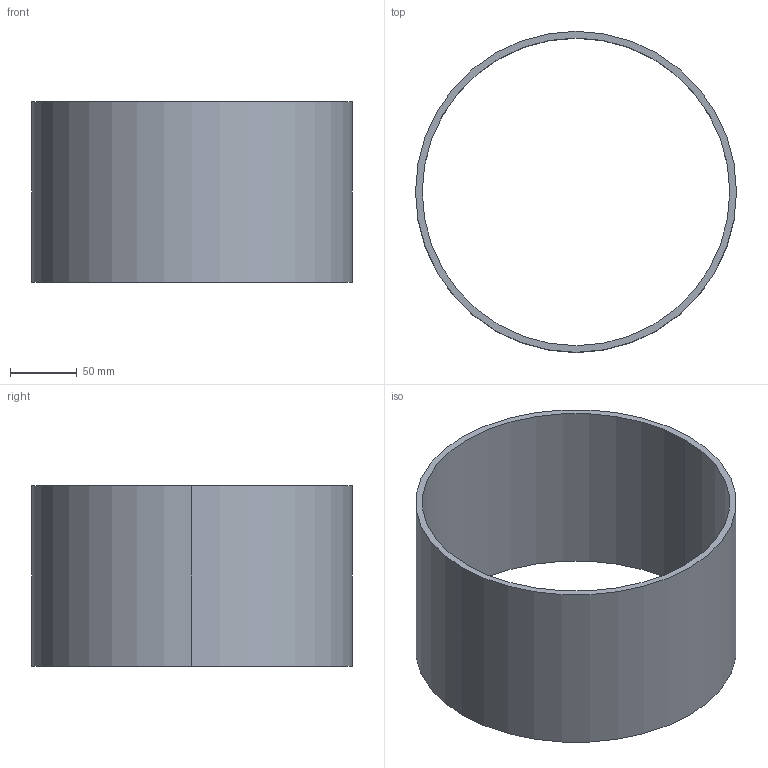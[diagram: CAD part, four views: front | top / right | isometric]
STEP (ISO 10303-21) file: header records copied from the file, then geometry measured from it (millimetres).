
FILE_DESCRIPTION(('CATIA V5 STEP Exchange'),'2;1');
FILE_NAME('C:\_Andres\UNIVERSIDAD\IQS\ASIGNATURAS\DAO\EXF\EXF-15161c\1original\Purroy_Trillo_Ej07-tabla_v20.stp','2016-03-04T21:16:35+00:00',('none'),('none'),'CATIA Version 5 Release 20 SP 1 (IN-10)','CATIA V5 STEP AP203','none');
FILE_SCHEMA(('CONFIG_CONTROL_DESIGN'));
Length unit declared in the file: millimetre
Products named in the file (1): Purroy_Trillo_Ej07-tabla_v20
Bounding box: 240 x 240 x 135 mm (x, y, z)
Volume: 498335.1 mm3; surface area: 206716.8 mm2
Topology: 1 solids, 1 shells, 6 faces, 13 edges, 10 vertices
Faces by surface type: cylinder 4, plane 2
Entity records: 208 total; most frequent: CARTESIAN_POINT 29, ORIENTED_EDGE 24, DIRECTION 23, AXIS2_PLACEMENT_3D 14, EDGE_CURVE 12, CIRCLE 8, EDGE_LOOP 8, VERTEX_POINT 8
